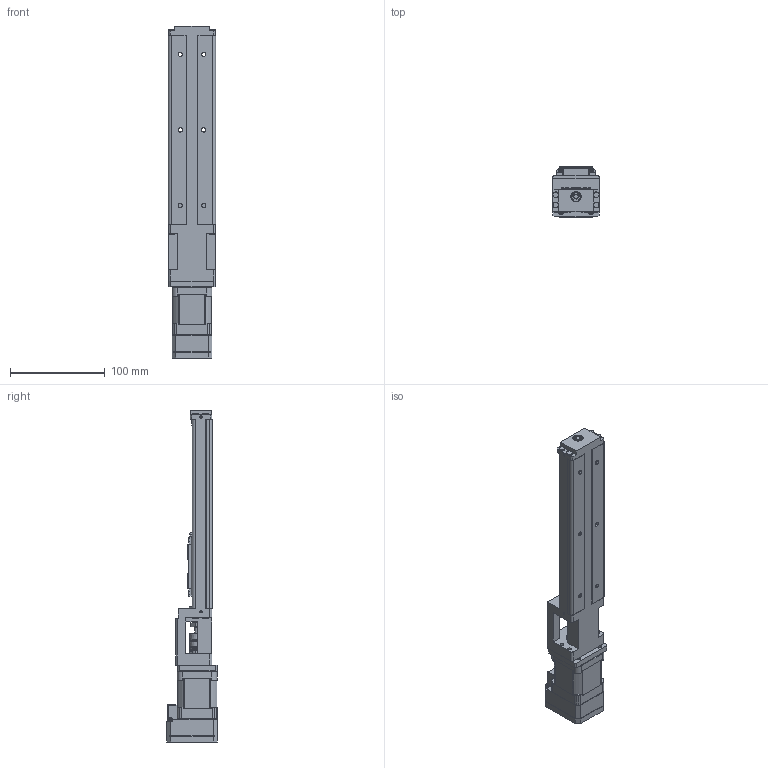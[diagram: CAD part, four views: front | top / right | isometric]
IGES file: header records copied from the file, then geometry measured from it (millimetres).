
Start section: SolidWorks IGES file using analytic representation for surfaces
Global section: file name: \\MYODRIVE\Public\CAD Files\Integrated-Actuators\SPA-Series\SPA-26\SPA26-A-02-110-S-00A0-17L30-X.IGS; native system: SolidWorks 2015; preprocessor: SolidWorks 2015; author: RENDER; date: 150106.125517; units: millimetre
Bounding box: 50 x 53 x 351.3 mm (x, y, z)
Surface area: 106902.6 mm2 (no closed solid volume)
Topology: 0 solids, 0 shells, 1800 faces, 19768 edges, 19735 vertices
Faces by surface type: bspline 1153, revolution 647
